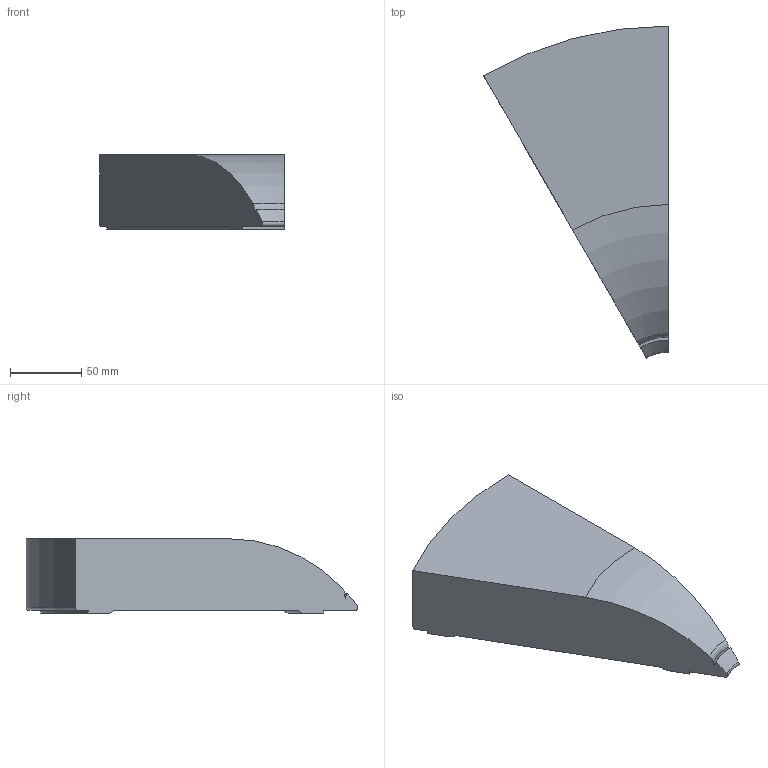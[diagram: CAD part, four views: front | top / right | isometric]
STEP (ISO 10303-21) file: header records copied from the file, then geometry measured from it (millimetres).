
FILE_DESCRIPTION(/* description */ ('Unknown'),/* implementation_level */ '2;1');
FILE_NAME(/* name */ '3D_Footsie-Slim_Corner30deg',/* time_stamp */ '2024-01-11T10:05:41+01:00',/* author */ ('Unknown'),/* organization */ ('Unknown'),/* preprocessor_version */ 'ST-DEVELOPER v18.104',/* originating_system */ 'Solid Edge',/* authorisation */ 'Unknown');
FILE_SCHEMA (('AUTOMOTIVE_DESIGN {1 0 10303 214 3 1 1}'));
Length unit declared in the file: millimetre
Products named in the file (1): 3D_Footsie-Slim_Corner30deg
Bounding box: 129.41 x 232.21 x 52 mm (x, y, z)
Volume: 826913.6 mm3; surface area: 62153.2 mm2
Topology: 1 solids, 1 shells, 20 faces, 54 edges, 36 vertices
Faces by surface type: plane 8, torus 7, cylinder 3, cone 2
Entity records: 680 total; most frequent: DIRECTION 128, CARTESIAN_POINT 111, ORIENTED_EDGE 108, EDGE_CURVE 54, AXIS2_PLACEMENT_3D 53, VERTEX_POINT 36, CIRCLE 32, LINE 22
